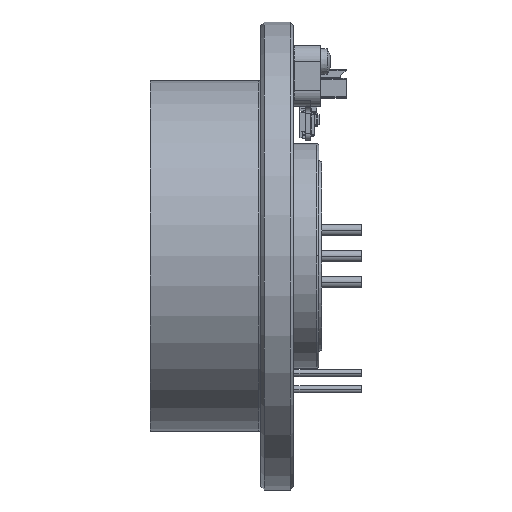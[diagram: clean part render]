
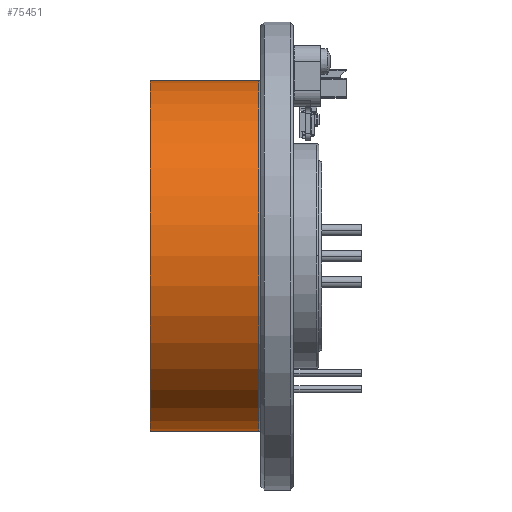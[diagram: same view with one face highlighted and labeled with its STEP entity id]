
A CAD part, top view. The second image highlights one B-rep face of the part: STEP entity #75451.
In plain terms, the highlighted cylindrical face has radius 27 mm (diameter 54 mm), a partial arc.
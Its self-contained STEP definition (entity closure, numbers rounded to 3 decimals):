
#5755=CARTESIAN_POINT('',(-5.3,0.,0.));
#5756=DIRECTION('',(-1.,0.,0.));
#5757=DIRECTION('',(0.,-1.,0.));
#5758=AXIS2_PLACEMENT_3D('',#5755,#5756,#5757);
#5763=CARTESIAN_POINT('',(-22.,0.,0.));
#5764=DIRECTION('',(1.,0.,0.));
#5765=DIRECTION('',(0.,1.,0.));
#5766=AXIS2_PLACEMENT_3D('',#5763,#5764,#5765);
#5779=DIRECTION('',(1.,0.,0.));
#5780=VECTOR('',#5779,16.7);
#5781=CARTESIAN_POINT('',(-22.,27.,0.));
#5782=LINE('',#5781,#5780);
#5794=DIRECTION('',(1.,0.,0.));
#5795=VECTOR('',#5794,16.7);
#5796=CARTESIAN_POINT('',(-22.,-27.,0.));
#5797=LINE('',#5796,#5795);
#64312=CARTESIAN_POINT('',(-22.,27.,0.));
#64313=CARTESIAN_POINT('',(-22.,-27.,0.));
#64314=VERTEX_POINT('',#64312);
#64315=VERTEX_POINT('',#64313);
#64328=CARTESIAN_POINT('',(-5.3,27.,0.));
#64329=CARTESIAN_POINT('',(-5.3,-27.,0.));
#64330=VERTEX_POINT('',#64328);
#64331=VERTEX_POINT('',#64329);
#75437=CARTESIAN_POINT('',(-23.1,0.,0.));
#75438=DIRECTION('',(1.,0.,0.));
#75439=DIRECTION('',(0.,1.,0.));
#75440=AXIS2_PLACEMENT_3D('',#75437,#75438,#75439);
#75441=CYLINDRICAL_SURFACE('',#75440,27.);
#75442=ORIENTED_EDGE('',*,*,#75431,.F.);
#75444=ORIENTED_EDGE('',*,*,#75443,.F.);
#75446=ORIENTED_EDGE('',*,*,#75445,.F.);
#75448=ORIENTED_EDGE('',*,*,#75447,.T.);
#75449=EDGE_LOOP('',(#75442,#75444,#75446,#75448));
#75450=FACE_OUTER_BOUND('',#75449,.F.);
#75451=ADVANCED_FACE('',(#75450),#75441,.T.);
#5759=CIRCLE('',#5758,27.);
#5767=CIRCLE('',#5766,27.);
#75431=EDGE_CURVE('',#64331,#64330,#5759,.T.);
#75443=EDGE_CURVE('',#64315,#64331,#5797,.T.);
#75445=EDGE_CURVE('',#64314,#64315,#5767,.T.);
#75447=EDGE_CURVE('',#64314,#64330,#5782,.T.);
